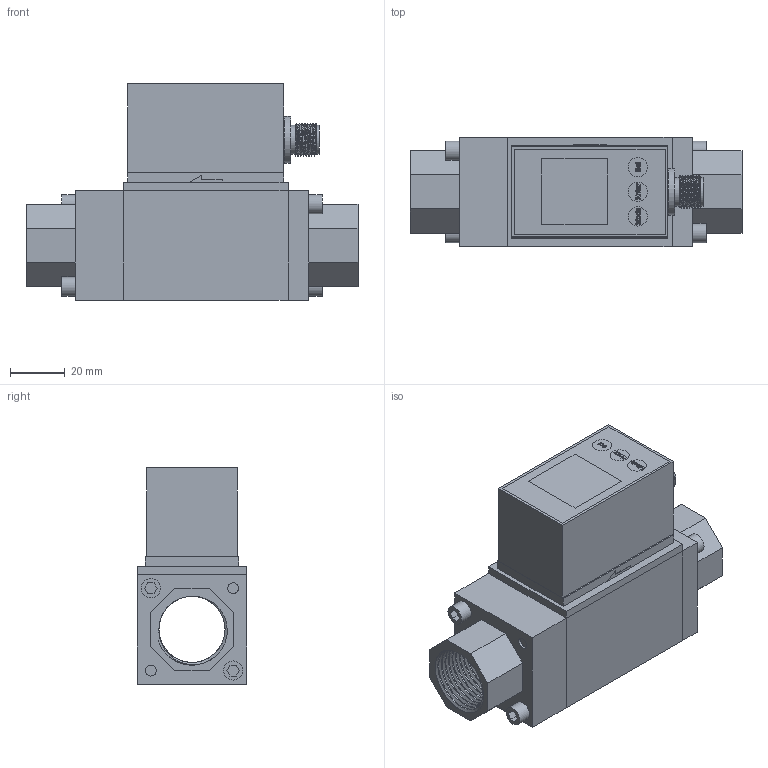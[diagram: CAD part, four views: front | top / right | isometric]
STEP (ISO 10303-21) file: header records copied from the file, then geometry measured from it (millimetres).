
FILE_DESCRIPTION (( 'STEP AP203' ), '1' );
FILE_NAME ('苤講最RC34.STEP', '2024-07-12T01:29:59', ( '' ), ( '' ), 'SwSTEP 2.0', 'SolidWorks 2023', '' );
FILE_SCHEMA (( 'CONFIG_CONTROL_DESIGN' ));
Length unit declared in the file: millimetre
Products named in the file (9): 小量程RC34; RC34主体; RC34进水口; 08-固定螺栓; 01-基座; 04-M12针套（5针）; 02-显示模块; RC34出水口; 03-M12盘装插座
Assembly tree (11 placements, depth 2):
  小量程RC34
    01-基座
    02-显示模块
    03-M12盘装插座
    04-M12针套（5针）
    08-固定螺栓  x4
    RC34出水口
    RC34进水口
    RC34主体
Bounding box: 121 x 40 x 78.91 mm (x, y, z)
Volume: 182491.7 mm3; surface area: 62410.7 mm2
Topology: 11 solids, 11 shells, 389 faces, 974 edges, 651 vertices
Faces by surface type: plane 232, bspline 90, cylinder 59, torus 8
Full cylindrical faces by diameter (mm): 1 x5, 4 x16, 7 x7, 9 x1, 9.5 x2, 10.5 x2, 12 x2, 17 x1, 24.1 x21
Entity records: 19846 total; most frequent: CARTESIAN_POINT 11486, ORIENTED_EDGE 1594, DIRECTION 1192, EDGE_CURVE 797, VERTEX_POINT 556, VECTOR 520, LINE 520, EDGE_LOOP 445
